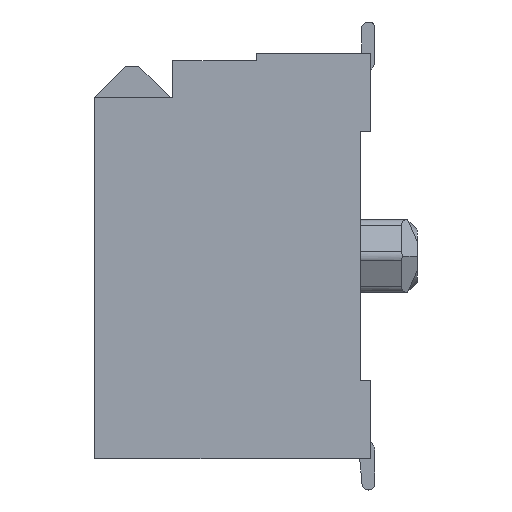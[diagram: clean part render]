
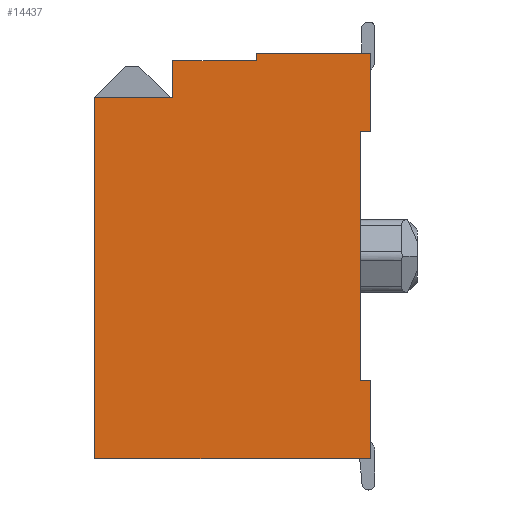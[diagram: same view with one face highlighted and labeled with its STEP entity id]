
A CAD part, left-side view. The second image highlights one B-rep face of the part: STEP entity #14437.
In plain terms, the highlighted planar face has unit normal (-1, 0, 0).
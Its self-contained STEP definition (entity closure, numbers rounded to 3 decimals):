
#191=DIRECTION('',(0.,0.,1.));
#192=VECTOR('',#191,1.5);
#193=CARTESIAN_POINT('',(-8.1,-5.3,4.3));
#194=LINE('',#193,#192);
#203=DIRECTION('',(0.,-1.,0.));
#204=VECTOR('',#203,0.2);
#205=CARTESIAN_POINT('',(-8.1,-5.1,4.3));
#206=LINE('',#205,#204);
#480=DIRECTION('',(0.,-1.,0.));
#481=VECTOR('',#480,1.609);
#482=CARTESIAN_POINT('',(-8.1,-1.5,5.65));
#483=LINE('',#482,#481);
#484=DIRECTION('',(0.,0.,-1.));
#485=VECTOR('',#484,0.15);
#486=CARTESIAN_POINT('',(-8.1,-3.109,5.8));
#487=LINE('',#486,#485);
#488=DIRECTION('',(0.,-1.,0.));
#489=VECTOR('',#488,2.191);
#490=CARTESIAN_POINT('',(-8.1,-3.109,5.8));
#491=LINE('',#490,#489);
#492=DIRECTION('',(0.,0.,-1.));
#493=VECTOR('',#492,4.8);
#494=CARTESIAN_POINT('',(-8.1,-5.1,4.3));
#495=LINE('',#494,#493);
#496=DIRECTION('',(0.,1.,0.));
#497=VECTOR('',#496,5.3);
#498=CARTESIAN_POINT('',(-8.1,-5.3,-2.));
#499=LINE('',#498,#497);
#500=DIRECTION('',(0.,0.,1.));
#501=VECTOR('',#500,6.95);
#502=CARTESIAN_POINT('',(-8.1,0.,-2.));
#503=LINE('',#502,#501);
#504=DIRECTION('',(0.,1.,0.));
#505=VECTOR('',#504,0.2);
#506=CARTESIAN_POINT('',(-8.1,-5.3,-0.5));
#507=LINE('',#506,#505);
#528=DIRECTION('',(0.,0.,1.));
#529=VECTOR('',#528,1.5);
#530=CARTESIAN_POINT('',(-8.1,-5.3,-2.));
#531=LINE('',#530,#529);
#5371=DIRECTION('',(0.,1.,0.));
#5372=VECTOR('',#5371,1.5);
#5373=CARTESIAN_POINT('',(-8.1,-1.5,4.95));
#5374=LINE('',#5373,#5372);
#5383=DIRECTION('',(0.,0.,-1.));
#5384=VECTOR('',#5383,0.7);
#5385=CARTESIAN_POINT('',(-8.1,-1.5,5.65));
#5386=LINE('',#5385,#5384);
#10324=CARTESIAN_POINT('',(-8.1,-5.1,-0.5));
#10325=VERTEX_POINT('',#10324);
#10326=CARTESIAN_POINT('',(-8.1,-5.1,4.3));
#10327=VERTEX_POINT('',#10326);
#10460=CARTESIAN_POINT('',(-8.1,0.,4.95));
#10462=VERTEX_POINT('',#10460);
#10464=CARTESIAN_POINT('',(-8.1,0.,-2.));
#10465=VERTEX_POINT('',#10464);
#10596=CARTESIAN_POINT('',(-8.1,-5.3,-2.));
#10597=VERTEX_POINT('',#10596);
#10951=CARTESIAN_POINT('',(-8.1,-1.5,5.65));
#10953=VERTEX_POINT('',#10951);
#10956=CARTESIAN_POINT('',(-8.1,-5.3,-0.5));
#10957=VERTEX_POINT('',#10956);
#10958=CARTESIAN_POINT('',(-8.1,-1.5,4.95));
#10959=VERTEX_POINT('',#10958);
#10960=CARTESIAN_POINT('',(-8.1,-5.3,4.3));
#10961=VERTEX_POINT('',#10960);
#11290=CARTESIAN_POINT('',(-8.1,-5.3,5.8));
#11292=VERTEX_POINT('',#11290);
#13247=CARTESIAN_POINT('',(-8.1,-3.109,5.8));
#13249=VERTEX_POINT('',#13247);
#13376=CARTESIAN_POINT('',(-8.1,-3.109,5.65));
#13377=VERTEX_POINT('',#13376);
#14412=CARTESIAN_POINT('',(-8.1,-2.65,1.9));
#14413=DIRECTION('',(1.,0.,0.));
#14414=DIRECTION('',(0.,0.,-1.));
#14415=AXIS2_PLACEMENT_3D('',#14412,#14413,#14414);
#14416=PLANE('',#14415);
#14417=ORIENTED_EDGE('',*,*,#14404,.T.);
#14418=ORIENTED_EDGE('',*,*,#14077,.F.);
#14419=ORIENTED_EDGE('',*,*,#13794,.T.);
#14420=ORIENTED_EDGE('',*,*,#13815,.F.);
#14421=ORIENTED_EDGE('',*,*,#13828,.F.);
#14422=ORIENTED_EDGE('',*,*,#13849,.T.);
#14424=ORIENTED_EDGE('',*,*,#14423,.F.);
#14426=ORIENTED_EDGE('',*,*,#14425,.F.);
#14428=ORIENTED_EDGE('',*,*,#14427,.T.);
#14430=ORIENTED_EDGE('',*,*,#14429,.T.);
#14432=ORIENTED_EDGE('',*,*,#14431,.F.);
#14434=ORIENTED_EDGE('',*,*,#14433,.F.);
#14435=EDGE_LOOP('',(#14417,#14418,#14419,#14420,#14421,#14422,#14424,#14426,
#14428,#14430,#14432,#14434));
#14436=FACE_OUTER_BOUND('',#14435,.F.);
#14437=ADVANCED_FACE('',(#14436),#14416,.F.);
#13794=EDGE_CURVE('',#13249,#11292,#491,.T.);
#13815=EDGE_CURVE('',#10961,#11292,#194,.T.);
#13828=EDGE_CURVE('',#10327,#10961,#206,.T.);
#13849=EDGE_CURVE('',#10327,#10325,#495,.T.);
#14077=EDGE_CURVE('',#13249,#13377,#487,.T.);
#14404=EDGE_CURVE('',#10953,#13377,#483,.T.);
#14423=EDGE_CURVE('',#10957,#10325,#507,.T.);
#14425=EDGE_CURVE('',#10597,#10957,#531,.T.);
#14427=EDGE_CURVE('',#10597,#10465,#499,.T.);
#14429=EDGE_CURVE('',#10465,#10462,#503,.T.);
#14431=EDGE_CURVE('',#10959,#10462,#5374,.T.);
#14433=EDGE_CURVE('',#10953,#10959,#5386,.T.);
